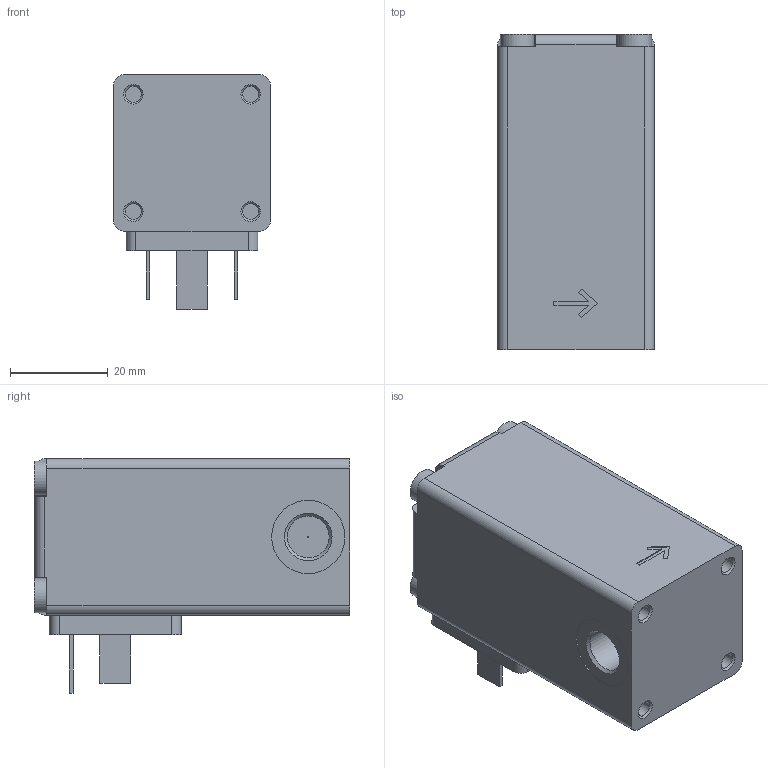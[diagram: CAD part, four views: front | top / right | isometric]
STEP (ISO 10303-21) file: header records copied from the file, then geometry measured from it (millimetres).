
FILE_DESCRIPTION(/* description */ (''),/* implementation_level */ '2;1');
FILE_NAME(/* name */ 'U:/AirCom-Produktdokumentation/Volumenstromregelung/PV/Zeichnungen/CAD-Aircom/3D/B-PV22-1x.step',/* time_stamp */ '2022-06-13T15:17:31+02:00',/* author */ (''),/* organization */ (''),/* preprocessor_version */ 'ST-DEVELOPER v19',/* originating_system */ 'Autodesk Translation Framework v11.7.0.108',/* authorisation */ '');
FILE_SCHEMA (('AUTOMOTIVE_DESIGN { 1 0 10303 214 3 1 1 }'));
Length unit declared in the file: millimetre
Products named in the file (2): 2873-234289-2/2-way proportional valve; HI_2873-234289t-2/2-Wege-Proportionalventil
Assembly tree (1 placements, depth 2):
  2873-234289-2/2-way proportional valve
    HI_2873-234289t-2/2-Wege-Proportionalventil
Bounding box: 32 x 64.6 x 48 mm (x, y, z)
Volume: 67422.9 mm3; surface area: 11888.2 mm2
Topology: 1 solids, 1 shells, 111 faces, 257 edges, 169 vertices
Faces by surface type: plane 70, cylinder 32, cone 8, torus 1
Full cylindrical faces by diameter (mm): 0.2 x1, 2.459 x1, 3.242 x4, 6 x1, 7 x4, 8.566 x2, 10 x1, 15 x2
Entity records: 3347 total; most frequent: DIRECTION 561, CARTESIAN_POINT 540, ORIENTED_EDGE 514, EDGE_CURVE 257, AXIS2_PLACEMENT_3D 190, LINE 181, VECTOR 181, VERTEX_POINT 169
